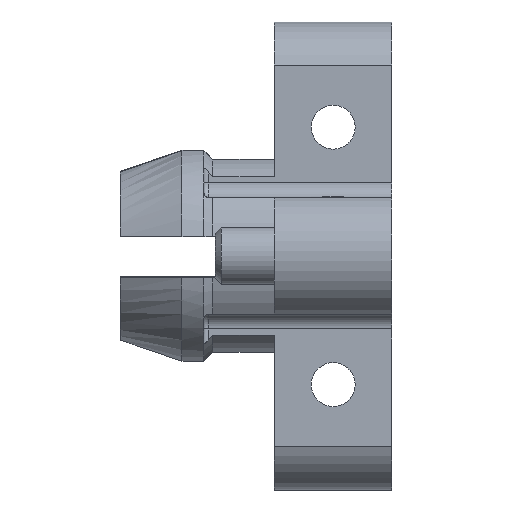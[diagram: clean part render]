
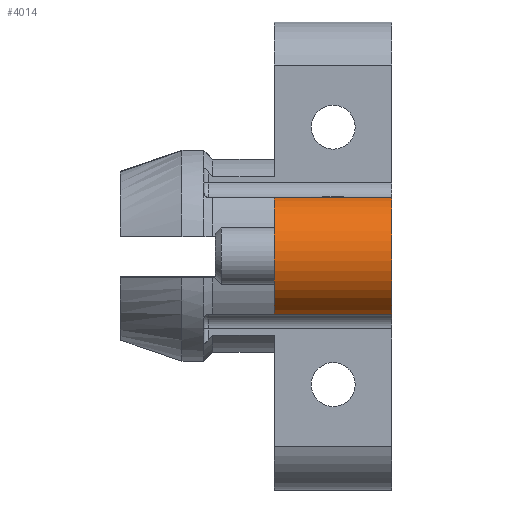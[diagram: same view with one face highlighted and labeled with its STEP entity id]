
A CAD part, left-side view. The second image highlights one B-rep face of the part: STEP entity #4014.
In plain terms, the highlighted cylindrical face has radius 3.13 mm (diameter 6.26 mm), a partial arc.
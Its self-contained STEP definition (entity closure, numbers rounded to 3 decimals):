
#76 = ORIENTED_EDGE ( 'NONE', *, *, #1917, .T. ) ;
#115 = VERTEX_POINT ( 'NONE', #1374 ) ;
#229 = DIRECTION ( 'NONE',  ( 0., 0., 1. ) ) ;
#352 = CIRCLE ( 'NONE', #1413, 3.13 ) ;
#440 = DIRECTION ( 'NONE',  ( 0., 1., 0. ) ) ;
#533 = DIRECTION ( 'NONE',  ( 0., -1., 0. ) ) ;
#768 = VECTOR ( 'NONE', #1134, 1000. ) ;
#807 = EDGE_CURVE ( 'NONE', #3693, #3054, #352, .T. ) ;
#827 = CARTESIAN_POINT ( 'NONE',  ( -9.8, 6.028, 2.995 ) ) ;
#861 = LINE ( 'NONE', #827, #768 ) ;
#909 = DIRECTION ( 'NONE',  ( 0., 0., -1. ) ) ;
#943 = AXIS2_PLACEMENT_3D ( 'NONE', #2868, #991, #3180 ) ;
#991 = DIRECTION ( 'NONE',  ( 0., 1., 0. ) ) ;
#1134 = DIRECTION ( 'NONE',  ( 0., -1., 0. ) ) ;
#1220 = CARTESIAN_POINT ( 'NONE',  ( -9.8, 0., 2.995 ) ) ;
#1337 = ORIENTED_EDGE ( 'NONE', *, *, #2413, .F. ) ;
#1374 = CARTESIAN_POINT ( 'NONE',  ( -9.8, 0., -2.995 ) ) ;
#1413 = AXIS2_PLACEMENT_3D ( 'NONE', #3877, #440, #229 ) ;
#1461 = CIRCLE ( 'NONE', #943, 3.13 ) ;
#1603 = EDGE_CURVE ( 'NONE', #115, #4022, #1461, .T. ) ;
#1660 = CARTESIAN_POINT ( 'NONE',  ( -9.8, 6.028, -2.995 ) ) ;
#1731 = EDGE_LOOP ( 'NONE', ( #3506, #1337, #2656, #76 ) ) ;
#1837 = CYLINDRICAL_SURFACE ( 'NONE', #3044, 3.13 ) ;
#1917 = EDGE_CURVE ( 'NONE', #3693, #115, #2883, .T. ) ;
#2051 = VECTOR ( 'NONE', #533, 1000. ) ;
#2154 = DIRECTION ( 'NONE',  ( 0., -1., 0. ) ) ;
#2240 = FACE_OUTER_BOUND ( 'NONE', #1731, .T. ) ;
#2413 = EDGE_CURVE ( 'NONE', #3054, #4022, #861, .T. ) ;
#2421 = CARTESIAN_POINT ( 'NONE',  ( -9.8, 6.028, -2.995 ) ) ;
#2656 = ORIENTED_EDGE ( 'NONE', *, *, #807, .F. ) ;
#2868 = CARTESIAN_POINT ( 'NONE',  ( -8.89, 0., 0. ) ) ;
#2883 = LINE ( 'NONE', #2421, #2051 ) ;
#3044 = AXIS2_PLACEMENT_3D ( 'NONE', #4012, #2154, #909 ) ;
#3054 = VERTEX_POINT ( 'NONE', #3676 ) ;
#3180 = DIRECTION ( 'NONE',  ( 0., 0., 1. ) ) ;
#3506 = ORIENTED_EDGE ( 'NONE', *, *, #1603, .T. ) ;
#3676 = CARTESIAN_POINT ( 'NONE',  ( -9.8, 6.028, 2.995 ) ) ;
#3693 = VERTEX_POINT ( 'NONE', #1660 ) ;
#3877 = CARTESIAN_POINT ( 'NONE',  ( -8.89, 6.028, 0. ) ) ;
#4012 = CARTESIAN_POINT ( 'NONE',  ( -8.89, 6.028, 0. ) ) ;
#4014 = ADVANCED_FACE ( 'NONE', ( #2240 ), #1837, .T. ) ;
#4022 = VERTEX_POINT ( 'NONE', #1220 ) ;
